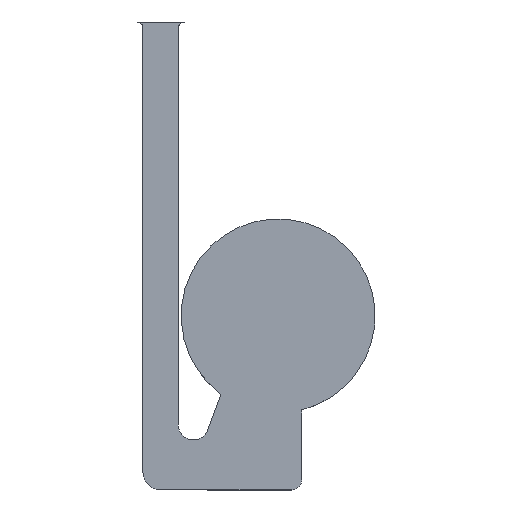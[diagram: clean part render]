
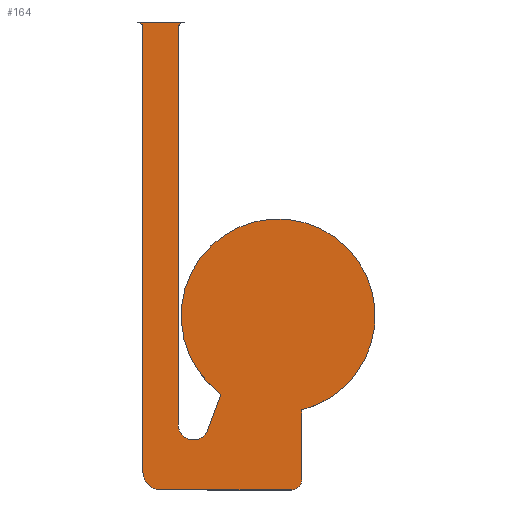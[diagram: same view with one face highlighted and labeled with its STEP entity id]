
A CAD part, top view. The second image highlights one B-rep face of the part: STEP entity #164.
In plain terms, the highlighted planar face has unit normal (0, 0, 1).
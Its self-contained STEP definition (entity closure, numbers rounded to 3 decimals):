
#164 = ADVANCED_FACE( '', ( #404 ), #405, .F. );
#404 = FACE_OUTER_BOUND( '', #736, .T. );
#405 = PLANE( '', #737 );
#736 = EDGE_LOOP( '', ( #1152, #1153, #1154, #1155, #1156, #1157, #1158, #1159, #1160, #1161, #1162, #1163 ) );
#737 = AXIS2_PLACEMENT_3D( '', #1164, #1165, #1166 );
#1152 = ORIENTED_EDGE( '', *, *, #1793, .F. );
#1153 = ORIENTED_EDGE( '', *, *, #1794, .F. );
#1154 = ORIENTED_EDGE( '', *, *, #1795, .F. );
#1155 = ORIENTED_EDGE( '', *, *, #1796, .T. );
#1156 = ORIENTED_EDGE( '', *, *, #1797, .F. );
#1157 = ORIENTED_EDGE( '', *, *, #1798, .T. );
#1158 = ORIENTED_EDGE( '', *, *, #1761, .T. );
#1159 = ORIENTED_EDGE( '', *, *, #1747, .F. );
#1160 = ORIENTED_EDGE( '', *, *, #1724, .T. );
#1161 = ORIENTED_EDGE( '', *, *, #1799, .F. );
#1162 = ORIENTED_EDGE( '', *, *, #1800, .F. );
#1163 = ORIENTED_EDGE( '', *, *, #1801, .F. );
#1164 = CARTESIAN_POINT( '', ( -250., 250., 0. ) );
#1165 = DIRECTION( '', ( 0., 0., -1. ) );
#1166 = DIRECTION( '', ( 0., 1., 0. ) );
#1724 = EDGE_CURVE( '', #2013, #2014, #2015, .F. );
#1747 = EDGE_CURVE( '', #2013, #2052, #2053, .F. );
#1761 = EDGE_CURVE( '', #2075, #2052, #2076, .F. );
#1793 = EDGE_CURVE( '', #2126, #2127, #2128, .F. );
#1794 = EDGE_CURVE( '', #2129, #2126, #2130, .T. );
#1795 = EDGE_CURVE( '', #2131, #2129, #2132, .F. );
#1796 = EDGE_CURVE( '', #2131, #2133, #2134, .F. );
#1797 = EDGE_CURVE( '', #2135, #2133, #2136, .T. );
#1798 = EDGE_CURVE( '', #2135, #2075, #2137, .T. );
#1799 = EDGE_CURVE( '', #2138, #2014, #2139, .F. );
#1800 = EDGE_CURVE( '', #2140, #2138, #2141, .F. );
#1801 = EDGE_CURVE( '', #2127, #2140, #2142, .T. );
#2013 = VERTEX_POINT( '', #2418 );
#2014 = VERTEX_POINT( '', #2419 );
#2015 = CIRCLE( '', #2420, 82.5 );
#2052 = VERTEX_POINT( '', #2463 );
#2053 = LINE( '', #2464, #2465 );
#2075 = VERTEX_POINT( '', #2491 );
#2076 = CIRCLE( '', #2492, 8.853 );
#2126 = VERTEX_POINT( '', #2584 );
#2127 = VERTEX_POINT( '', #2585 );
#2128 = CIRCLE( '', #2586, 5. );
#2129 = VERTEX_POINT( '', #2587 );
#2130 = LINE( '', #2588, #2589 );
#2131 = VERTEX_POINT( '', #2590 );
#2132 = CIRCLE( '', #2591, 5. );
#2133 = VERTEX_POINT( '', #2592 );
#2134 = LINE( '', #2593, #2594 );
#2135 = VERTEX_POINT( '', #2595 );
#2136 = CIRCLE( '', #2596, 15. );
#2137 = LINE( '', #2597, #2598 );
#2138 = VERTEX_POINT( '', #2599 );
#2139 = LINE( '', #2600, #2601 );
#2140 = VERTEX_POINT( '', #2602 );
#2141 = CIRCLE( '', #2603, 13. );
#2142 = LINE( '', #2604, #2605 );
#2418 = CARTESIAN_POINT( '', ( 20., -80.039, 0. ) );
#2419 = CARTESIAN_POINT( '', ( -48.711, -66.585, 0. ) );
#2420 = AXIS2_PLACEMENT_3D( '', #2945, #2946, #2947 );
#2463 = CARTESIAN_POINT( '', ( 20., -139.147, 0. ) );
#2464 = CARTESIAN_POINT( '', ( 20., -250., 0. ) );
#2465 = VECTOR( '', #2984, 1000. );
#2491 = CARTESIAN_POINT( '', ( 11.147, -148., 0. ) );
#2492 = AXIS2_PLACEMENT_3D( '', #3004, #3005, #3006 );
#2584 = CARTESIAN_POINT( '', ( -80., 250., 0. ) );
#2585 = CARTESIAN_POINT( '', ( -85., 245., 0. ) );
#2586 = AXIS2_PLACEMENT_3D( '', #3043, #3044, #3045 );
#2587 = CARTESIAN_POINT( '', ( -120., 250., 0. ) );
#2588 = CARTESIAN_POINT( '', ( -250., 250., 0. ) );
#2589 = VECTOR( '', #3046, 1000. );
#2590 = CARTESIAN_POINT( '', ( -115., 245., 0. ) );
#2591 = AXIS2_PLACEMENT_3D( '', #3047, #3048, #3049 );
#2592 = CARTESIAN_POINT( '', ( -115., -133., 0. ) );
#2593 = CARTESIAN_POINT( '', ( -115., 260., 0. ) );
#2594 = VECTOR( '', #3050, 1000. );
#2595 = CARTESIAN_POINT( '', ( -100., -148., 0. ) );
#2596 = AXIS2_PLACEMENT_3D( '', #3051, #3052, #3053 );
#2597 = CARTESIAN_POINT( '', ( -60.404, -148., 0. ) );
#2598 = VECTOR( '', #3054, 1000. );
#2599 = CARTESIAN_POINT( '', ( -59.784, -97.008, 0. ) );
#2600 = CARTESIAN_POINT( '', ( -66.868, -116.471, 0. ) );
#2601 = VECTOR( '', #3055, 1000. );
#2602 = CARTESIAN_POINT( '', ( -85., -92.561, 0. ) );
#2603 = AXIS2_PLACEMENT_3D( '', #3056, #3057, #3058 );
#2604 = CARTESIAN_POINT( '', ( -85., -250., 0. ) );
#2605 = VECTOR( '', #3059, 1000. );
#2945 = CARTESIAN_POINT( '', ( 0., 0., 0. ) );
#2946 = DIRECTION( '', ( 0., 0., -1. ) );
#2947 = DIRECTION( '', ( -1., 0., 0. ) );
#2984 = DIRECTION( '', ( 0., 1., 0. ) );
#3004 = CARTESIAN_POINT( '', ( 11.147, -139.147, 0. ) );
#3005 = DIRECTION( '', ( 0., 0., -1. ) );
#3006 = DIRECTION( '', ( -1., 0., 0. ) );
#3043 = CARTESIAN_POINT( '', ( -80., 245., 0. ) );
#3044 = DIRECTION( '', ( 0., 0., -1. ) );
#3045 = DIRECTION( '', ( -1., 0., 0. ) );
#3046 = DIRECTION( '', ( 1., 0., 0. ) );
#3047 = CARTESIAN_POINT( '', ( -120., 245., 0. ) );
#3048 = DIRECTION( '', ( 0., 0., -1. ) );
#3049 = DIRECTION( '', ( -1., 0., 0. ) );
#3050 = DIRECTION( '', ( 0., 1., 0. ) );
#3051 = CARTESIAN_POINT( '', ( -100., -133., 0. ) );
#3052 = DIRECTION( '', ( 0., 0., -1. ) );
#3053 = DIRECTION( '', ( -1., 0., 0. ) );
#3054 = DIRECTION( '', ( 1., 0., 0. ) );
#3055 = DIRECTION( '', ( -0.342, -0.94, 0. ) );
#3056 = CARTESIAN_POINT( '', ( -72., -92.561, 0. ) );
#3057 = DIRECTION( '', ( 0., 0., -1. ) );
#3058 = DIRECTION( '', ( -1., 0., 0. ) );
#3059 = DIRECTION( '', ( 0., -1., 0. ) );
